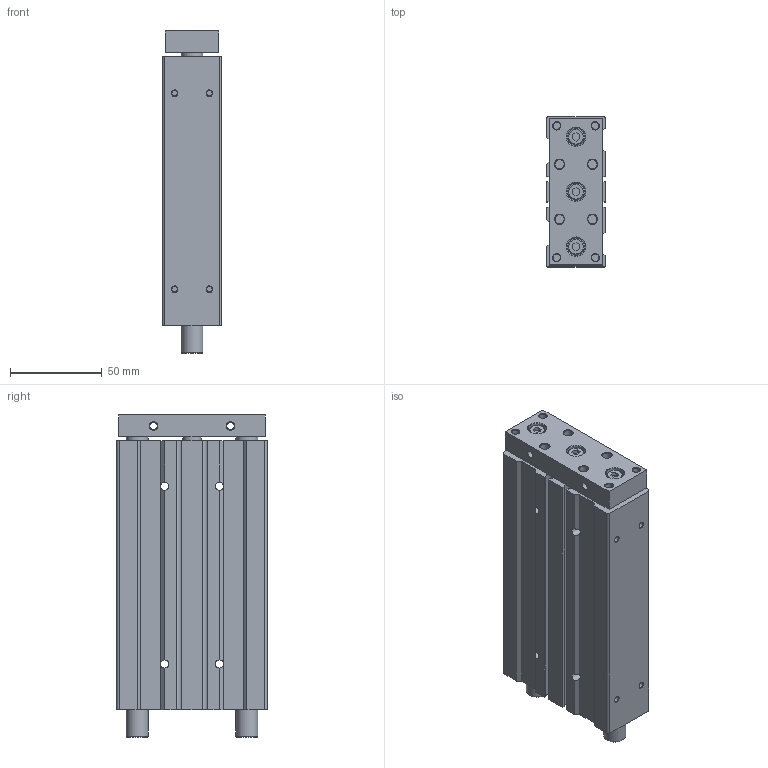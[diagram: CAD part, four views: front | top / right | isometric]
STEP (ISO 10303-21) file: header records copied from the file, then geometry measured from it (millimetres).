
FILE_DESCRIPTION((''),'2;1');
FILE_NAME('I:\3D電子目錄\氣缸\TB(U)\TB(U)20\TB(U)20\TB(U)20x100.stp','2007-08-06T08:21:51',('Administrator'),(''),'Autodesk Inventor 2008','Autodesk Inventor 2008','');
FILE_SCHEMA(('AUTOMOTIVE_DESIGN { 1 0 10303 214 1 1 1 1 }'));
Length unit declared in the file: millimetre
Products named in the file (1): TB(U)20X100
Bounding box: 32 x 82 x 175.9 mm (x, y, z)
Volume: 384981.8 mm3; surface area: 59575.1 mm2
Topology: 1 solids, 1 shells, 188 faces, 424 edges, 268 vertices
Faces by surface type: plane 90, cylinder 50, cone 37, bspline 8, torus 3
Full cylindrical faces by diameter (mm): 3 x4, 4 x6, 4.4 x4, 5 x10, 8 x4, 9 x3, 10 x4, 12 x4, 19 x2, 22 x1
Entity records: 4948 total; most frequent: CARTESIAN_POINT 875, DIRECTION 860, ORIENTED_EDGE 676, AXIS2_PLACEMENT_3D 341, EDGE_CURVE 338, EDGE_LOOP 336, VERTEX_POINT 268, FACE_OUTER_BOUND 188
